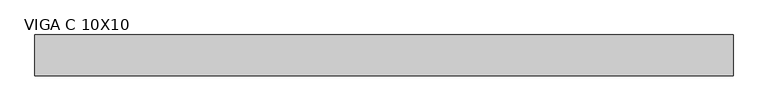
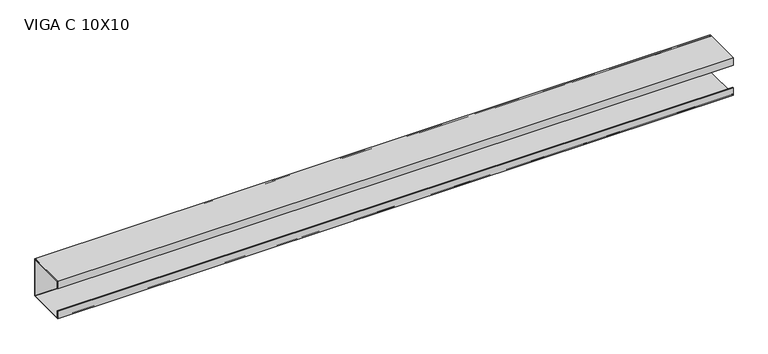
"""IFC4 building model written with IfcOpenShell, lengths in millimetres: beam geometry, VIGA PERFIL C AÇO : VIGA C 10X10."""

from ifc_helpers import new_model, si_unit, point, frame, frame_2d, origin, place, context, project, spatial, polyline, circle_curve, trimmed, segment, composite_curve, outline, extrude, source, transform, mapped, element, save


def viga_c_10x10_5618c6b7(model_context):
    return source(origin(), model_context, "Body", "SweptSolid", [
        extrude(outline(polyline([(9.2, -50.0), (-90.8, -50.0), (-90.8, -30.0), (-88.9, -30.0), (-88.9, -48.1), (7.3, -48.1), (7.3, 48.1), (-88.9, 48.1), (-88.9, 30.0), (-90.8, 30.0), (-90.8, 50.0), (9.2, 50.0), (9.2, -50.0)])), frame((-875.5, 0.0, 0.0), z_axis=(1.0, 0.0, 0.0), x_axis=(0.0, 1.0, 0.0)), (0.0, 0.0, 1.0), 1706.0),
        extrude(outline(composite_curve([segment(trimmed(circle_curve(frame_2d((5.4, -46.2)), 3.8), [point((9.2, -46.2))], [point((5.4, -50.0))], False, "CARTESIAN"), True, "CONTINUOUS"), segment(polyline([(5.4, -50.0), (-87.0, -50.0)]), True, "CONTINUOUS"), segment(trimmed(circle_curve(frame_2d((-87.0, -46.2)), 3.8), [point((-87.0, -50.0))], [point((-90.8, -46.2))], False, "CARTESIAN"), True, "CONTINUOUS"), segment(polyline([(-90.8, -46.2), (-90.8, -30.0), (-88.9, -30.0), (-88.9, -46.2)]), True, "CONTINUOUS"), segment(trimmed(circle_curve(frame_2d((-87.0, -46.2)), 1.9), [point((-88.9, -46.2))], [point((-87.0, -48.1))], True, "CARTESIAN"), True, "CONTINUOUS"), segment(polyline([(-87.0, -48.1), (5.4, -48.1)]), True, "CONTINUOUS"), segment(trimmed(circle_curve(frame_2d((5.4, -46.2)), 1.9), [point((5.4, -48.1))], [point((7.3, -46.2))], True, "CARTESIAN"), True, "CONTINUOUS"), segment(polyline([(7.3, -46.2), (7.3, 46.2)]), True, "CONTINUOUS"), segment(trimmed(circle_curve(frame_2d((5.4, 46.2)), 1.9), [point((7.3, 46.2))], [point((5.4, 48.1))], True, "CARTESIAN"), True, "CONTINUOUS"), segment(polyline([(5.4, 48.1), (-87.0, 48.1)]), True, "CONTINUOUS"), segment(trimmed(circle_curve(frame_2d((-87.0, 46.2)), 1.9), [point((-87.0, 48.1))], [point((-88.9, 46.2))], True, "CARTESIAN"), True, "CONTINUOUS"), segment(polyline([(-88.9, 46.2), (-88.9, 30.0), (-90.8, 30.0), (-90.8, 46.2)]), True, "CONTINUOUS"), segment(trimmed(circle_curve(frame_2d((-87.0, 46.2)), 3.8), [point((-90.8, 46.2))], [point((-87.0, 50.0))], False, "CARTESIAN"), True, "CONTINUOUS"), segment(polyline([(-87.0, 50.0), (5.4, 50.0)]), True, "CONTINUOUS"), segment(trimmed(circle_curve(frame_2d((5.4, 46.2)), 3.8), [point((5.4, 50.0))], [point((9.2, 46.2))], False, "CARTESIAN"), True, "CONTINUOUS"), segment(polyline([(9.2, 46.2), (9.2, -46.2)]), True, "CONTINUOUS")], self_intersect=False)), frame((-875.5, 0.0, 0.0), z_axis=(1.0, 0.0, 0.0), x_axis=(0.0, 1.0, 0.0)), (0.0, 0.0, 1.0), 1706.0),
    ])


if __name__ == "__main__":
    model = new_model("IFC4")
    model_context = context("Model", 3, world=origin())
    ifc_project = project(units=[si_unit("LENGTHUNIT", "METRE", prefix="MILLI")], contexts=[model_context])
    site = spatial("IfcSite", under=ifc_project)
    building = spatial("IfcBuilding", under=site)
    placement = place(None, origin())
    viga_c_10x10_shape = viga_c_10x10_5618c6b7(model_context)
    element("IfcBeam", 1, ObjectType="VIGA PERFIL C AÇO : VIGA C 10X10", at=placement, inside=building, context=model_context, shape_type="MappedRepresentation", body=[
        mapped(viga_c_10x10_shape, transform((0.0, 0.0, 0.0), x_axis=(1.0, 0.0, 0.0), y_axis=(0.0, 1.0, 0.0), z_axis=(0.0, 0.0, 1.0))),
    ])
    save(model, "model.ifc")
